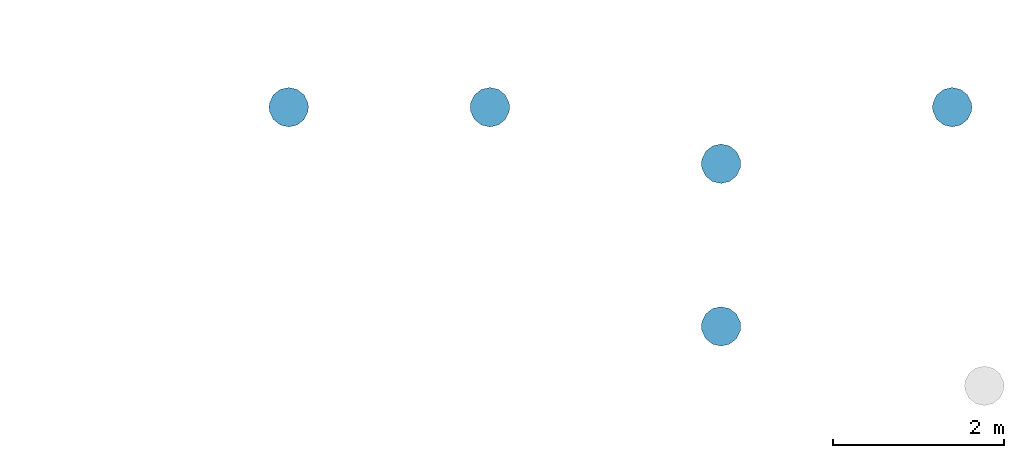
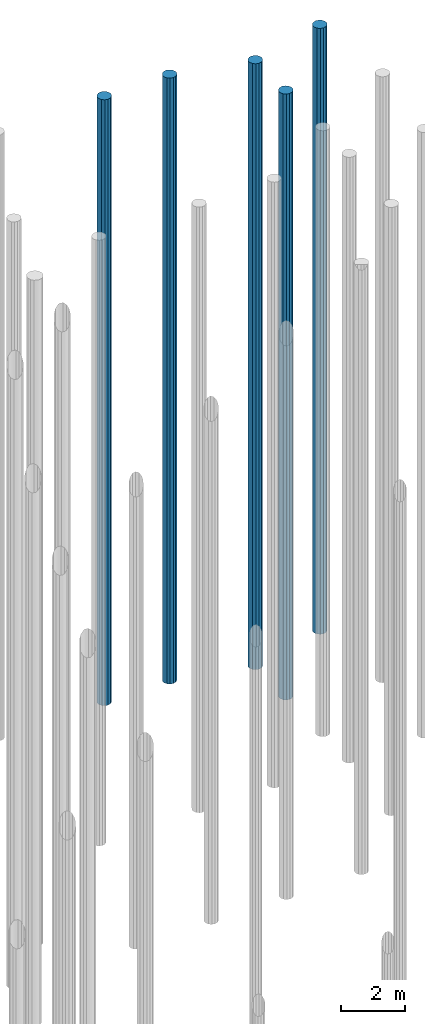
# One storey, part 20 of 20: 5 piles.
"""IFC2X3 building model written with IfcOpenShell, lengths in millimetres."""

from ifc_helpers import new_model, entity, si_unit, converted_unit, derived_unit, direction, frame, origin, place, context, subcontext, project, spatial, polyline, outline, extrude, material, element, save


model = new_model("IFC2X3")

# Units and contexts
model_context = context("Model", 3, precision=0.01, world=origin(), true_north=direction((6.12303176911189e-17, 1.0)))
body_context = subcontext(model_context, "Body", "Model", "MODEL_VIEW")
ifc_project = project(units=[si_unit("LENGTHUNIT", "METRE", prefix="MILLI"), si_unit("AREAUNIT", "SQUARE_METRE"), si_unit("VOLUMEUNIT", "CUBIC_METRE"), converted_unit("PLANEANGLEUNIT", "DEGREE", entity("IfcRatioMeasure", 0.0174532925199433), si_unit("PLANEANGLEUNIT", "RADIAN"), dimensions=[0, 0, 0, 0, 0, 0, 0]), si_unit("MASSUNIT", "GRAM", prefix="KILO"), derived_unit("MASSDENSITYUNIT", [(si_unit("MASSUNIT", "GRAM", prefix="KILO"), 1), (si_unit("LENGTHUNIT", "METRE"), -3)]), si_unit("TIMEUNIT", "SECOND"), si_unit("FREQUENCYUNIT", "HERTZ"), si_unit("THERMODYNAMICTEMPERATUREUNIT", "DEGREE_CELSIUS"), derived_unit("THERMALTRANSMITTANCEUNIT", [(si_unit("MASSUNIT", "GRAM", prefix="KILO"), 1), (si_unit("THERMODYNAMICTEMPERATUREUNIT", "KELVIN"), -1), (si_unit("TIMEUNIT", "SECOND"), -3)]), derived_unit("VOLUMETRICFLOWRATEUNIT", [(si_unit("LENGTHUNIT", "METRE"), 3), (si_unit("TIMEUNIT", "SECOND"), -1)]), si_unit("ELECTRICCURRENTUNIT", "AMPERE"), si_unit("ELECTRICVOLTAGEUNIT", "VOLT"), si_unit("POWERUNIT", "WATT"), si_unit("FORCEUNIT", "NEWTON", prefix="KILO"), si_unit("ILLUMINANCEUNIT", "LUX"), si_unit("LUMINOUSFLUXUNIT", "LUMEN"), si_unit("LUMINOUSINTENSITYUNIT", "CANDELA"), derived_unit("USERDEFINED", [(si_unit("MASSUNIT", "GRAM", prefix="KILO"), -1), (si_unit("LENGTHUNIT", "METRE"), -2), (si_unit("TIMEUNIT", "SECOND"), 3), (si_unit("LUMINOUSFLUXUNIT", "LUMEN"), 1)]), derived_unit("LINEARVELOCITYUNIT", [(si_unit("LENGTHUNIT", "METRE"), 1), (si_unit("TIMEUNIT", "SECOND"), -1)]), si_unit("PRESSUREUNIT", "PASCAL"), derived_unit("USERDEFINED", [(si_unit("LENGTHUNIT", "METRE"), -2), (si_unit("MASSUNIT", "GRAM", prefix="KILO"), 1), (si_unit("TIMEUNIT", "SECOND"), -2)])], contexts=[model_context])

# Site, building, storey
site_placement = place(None, origin())
site = spatial("IfcSite", under=ifc_project, at=site_placement, Name="Default", CompositionType="ELEMENT")
building_placement = place(site_placement, origin())
building = spatial("IfcBuilding", under=site, at=building_placement, Name="niet gebruiken", CompositionType="ELEMENT")
storey_placement = place(building_placement, frame((0.0, 0.0, -4000.0)))
storey = spatial("IfcBuildingStorey", under=building, at=storey_placement, Name="Level t.b.v. palenplan", CompositionType="ELEMENT", Elevation=-4000.0)

# Piles
ifc_material = material(Name="NLRS_f2_beton ihwg")
pile_1_placement = place(storey_placement, origin())
element("IfcPile", 1, at=pile_1_placement, inside=storey, material=ifc_material, Name="NLRS_17.12_SFO_TLB_funderingspaal grondverdringend_gen:Fundex_r460/560", ObjectType="NLRS_17.12_SFO_TLB_funderingspaal grondverdringend_gen:Fundex_r460/560", context=body_context, shape_type="SweptSolid", body=[
    extrude(outline(polyline([(-25.7518295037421, -228.553808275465), (25.7518295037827, -228.553808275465), (122.36737759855, -194.746565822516), (194.746565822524, -122.367377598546), (228.553808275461, -25.7518295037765), (217.093165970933, 75.9641842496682), (162.634559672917, 162.634559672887), (75.9641842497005, 217.093165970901), (25.7518295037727, 228.553808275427), (-25.7518295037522, 228.553808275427), (-122.367377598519, 194.746565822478), (-194.746565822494, 122.367377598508), (-228.553808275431, 25.7518295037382), (-217.093165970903, -75.9641842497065), (-162.634559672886, -162.634559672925), (-75.96418424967, -217.093165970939), (-25.7518295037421, -228.553808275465)])), frame((113750.0, 53131.0, -20100.0), z_axis=(0.0, 0.0, 1.0), x_axis=(0.111964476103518, -0.993712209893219, 0.0)), (0.0, 0.0, 1.0), 23028.0),
])
pile_2_placement = place(storey_placement, origin())
element("IfcPile", 2, at=pile_2_placement, inside=storey, material=ifc_material, Name="NLRS_17.12_SFO_TLB_funderingspaal grondverdringend_gen:Fundex_r460/560", ObjectType="NLRS_17.12_SFO_TLB_funderingspaal grondverdringend_gen:Fundex_r460/560", context=body_context, shape_type="SweptSolid", body=[
    extrude(outline(polyline([(-25.7518295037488, -228.553808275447), (25.751829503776, -228.553808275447), (122.367377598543, -194.746565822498), (194.746565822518, -122.367377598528), (228.553808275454, -25.7518295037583), (217.093165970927, 75.9641842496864), (162.63455967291, 162.634559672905), (75.9641842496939, 217.093165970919), (25.751829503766, 228.553808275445), (-25.7518295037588, 228.553808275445), (-122.367377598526, 194.746565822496), (-194.7465658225, 122.367377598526), (-228.553808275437, 25.7518295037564), (-217.093165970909, -75.9641842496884), (-162.634559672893, -162.634559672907), (-75.9641842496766, -217.093165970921), (-25.7518295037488, -228.553808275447)])), frame((116100.0, 53131.0, -20100.0), z_axis=(0.0, 0.0, 1.0), x_axis=(0.111964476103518, -0.993712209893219, 0.0)), (0.0, 0.0, 1.0), 23028.0),
])
pile_3_placement = place(storey_placement, origin())
element("IfcPile", 3, at=pile_3_placement, inside=storey, material=ifc_material, Name="NLRS_17.12_SFO_TLB_funderingspaal grondverdringend_gen:Fundex_r460/560", ObjectType="NLRS_17.12_SFO_TLB_funderingspaal grondverdringend_gen:Fundex_r460/560", context=body_context, shape_type="SweptSolid", body=[
    extrude(outline(polyline([(-25.7518295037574, -228.553808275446), (25.7518295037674, -228.553808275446), (122.367377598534, -194.746565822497), (194.746565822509, -122.367377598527), (228.553808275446, -25.7518295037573), (217.093165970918, 75.9641842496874), (162.634559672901, 162.634559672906), (75.9641842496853, 217.09316597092), (25.7518295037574, 228.553808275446), (-25.7518295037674, 228.553808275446), (-122.367377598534, 194.746565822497), (-194.746565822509, 122.367377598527), (-228.553808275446, 25.7518295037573), (-217.093165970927, -75.9641842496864), (-162.634559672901, -162.634559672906), (-75.9641842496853, -217.09316597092), (-25.7518295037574, -228.553808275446)])), frame((121500.0, 53131.0, -20100.0), z_axis=(0.0, 0.0, 1.0), x_axis=(0.111964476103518, -0.993712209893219, 0.0)), (0.0, 0.0, 1.0), 23028.0),
])
pile_4_placement = place(storey_placement, origin())
element("IfcPile", 4, at=pile_4_placement, inside=storey, material=ifc_material, Name="NLRS_17.12_SFO_TLB_funderingspaal grondverdringend_gen:Fundex_r460/560", ObjectType="NLRS_17.12_SFO_TLB_funderingspaal grondverdringend_gen:Fundex_r460/560", context=body_context, shape_type="SweptSolid", body=[
    extrude(outline(polyline([(-25.7518295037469, -228.55380827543), (25.751829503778, -228.55380827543), (122.367377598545, -194.746565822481), (194.74656582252, -122.367377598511), (228.553808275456, -25.7518295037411), (217.093165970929, 75.9641842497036), (162.634559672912, 162.634559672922), (75.9641842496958, 217.093165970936), (25.751829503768, 228.553808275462), (-25.7518295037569, 228.553808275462), (-122.367377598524, 194.746565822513), (-194.746565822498, 122.367377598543), (-228.553808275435, 25.7518295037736), (-217.093165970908, -75.9641842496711), (-162.634559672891, -162.63455967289), (-75.9641842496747, -217.093165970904), (-25.7518295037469, -228.55380827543)])), frame((118800.0, 52471.0, -20100.0), z_axis=(0.0, 0.0, 1.0), x_axis=(0.111964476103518, -0.993712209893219, 0.0)), (0.0, 0.0, 1.0), 23028.0),
])
pile_5_placement = place(storey_placement, origin())
element("IfcPile", 5, at=pile_5_placement, inside=storey, material=ifc_material, Name="NLRS_17.12_SFO_TLB_funderingspaal grondverdringend_gen:Fundex_r460/560", ObjectType="NLRS_17.12_SFO_TLB_funderingspaal grondverdringend_gen:Fundex_r460/560", context=body_context, shape_type="SweptSolid", body=[
    extrude(outline(polyline([(-25.7518295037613, -228.55380827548), (25.7518295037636, -228.55380827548), (122.367377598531, -194.746565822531), (194.746565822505, -122.367377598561), (228.553808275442, -25.7518295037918), (217.093165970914, 75.964184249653), (162.634559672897, 162.634559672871), (75.9641842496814, 217.093165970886), (25.7518295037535, 228.553808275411), (-25.7518295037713, 228.553808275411), (-122.367377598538, 194.746565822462), (-194.746565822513, 122.367377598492), (-228.55380827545, 25.7518295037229), (-217.093165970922, -75.9641842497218), (-162.634559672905, -162.63455967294), (-75.9641842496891, -217.093165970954), (-25.7518295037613, -228.55380827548)])), frame((118800.0, 50571.0, -20100.0), z_axis=(0.0, 0.0, 1.0), x_axis=(0.111964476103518, -0.993712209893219, 0.0)), (0.0, 0.0, 1.0), 23028.0),
])

save(model, "model.ifc")
